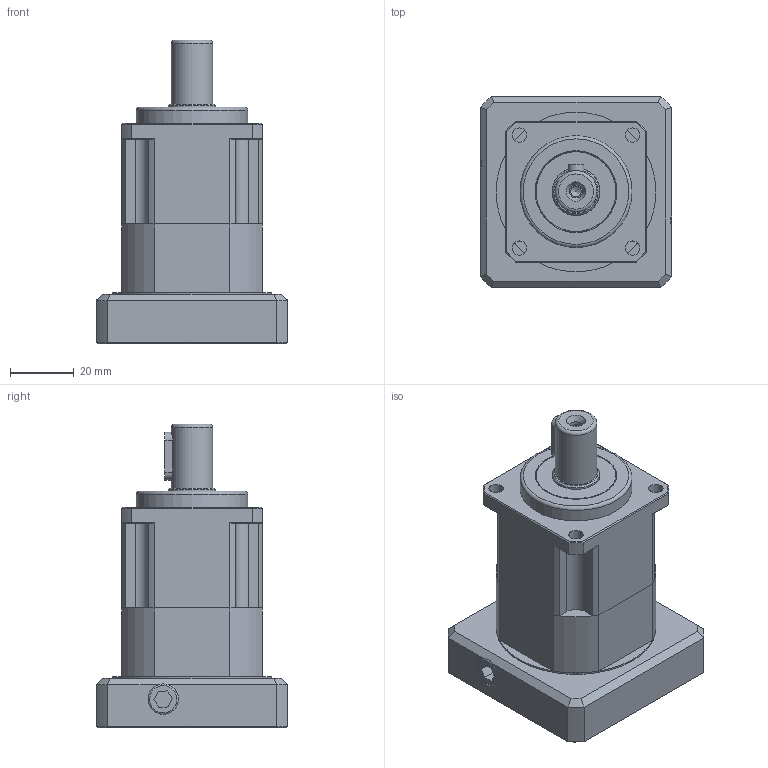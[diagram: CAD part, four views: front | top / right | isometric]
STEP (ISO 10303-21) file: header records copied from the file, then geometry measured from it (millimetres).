
FILE_DESCRIPTION((''),'2;1');
FILE_NAME('D:\WORK\감속기 도면\조립도(서보규격별)\KSB_PGX-H\KSB-44 (PGX44-H)\KSB-44-1(36-70.7-M4-S8).stp','2019-04-25T13:53:55',('Young'),(''),'Autodesk Inventor 2012','Autodesk Inventor 2012','');
FILE_SCHEMA(('AUTOMOTIVE_DESIGN { 1 0 10303 214 1 1 1 1 }'));
Length unit declared in the file: millimetre
Products named in the file (4): 조립품1; PGX44-H-1; 44-BK(EzM-60L); BS 4168 : 부품 1 6각 소켓 머리 캡 나사 - 미터 M4 x 10
Assembly tree (6 placements, depth 2):
  조립품1
    PGX44-H-1
    44-BK(EzM-60L)
    BS 4168 : 부품 1 6각 소켓 머리 캡 나사 - 미터 M4 x 10  x4
Bounding box: 60 x 60 x 95 mm (x, y, z)
Volume: 128936.2 mm3; surface area: 44915.2 mm2
Topology: 16 solids, 16 shells, 458 faces, 1129 edges, 727 vertices
Faces by surface type: plane 241, cylinder 129, cone 65, torus 14, bspline 9
Full cylindrical faces by diameter (mm): 2.5 x4, 3.242 x5, 3.3 x5, 4 x6, 4.2 x4, 4.5 x9, 6 x4, 7 x5, 8.2 x1, 9.5 x4, 13 x1, 14.2 x1, 14.8 x2, 15 x3, 25 x4, 28 x1, 30 x1, 32 x2, 35 x1, 50 x1
Entity records: 12610 total; most frequent: CARTESIAN_POINT 3040, DIRECTION 1947, ORIENTED_EDGE 1830, EDGE_CURVE 915, AXIS2_PLACEMENT_3D 734, VERTEX_POINT 638, EDGE_LOOP 563, VECTOR 479
